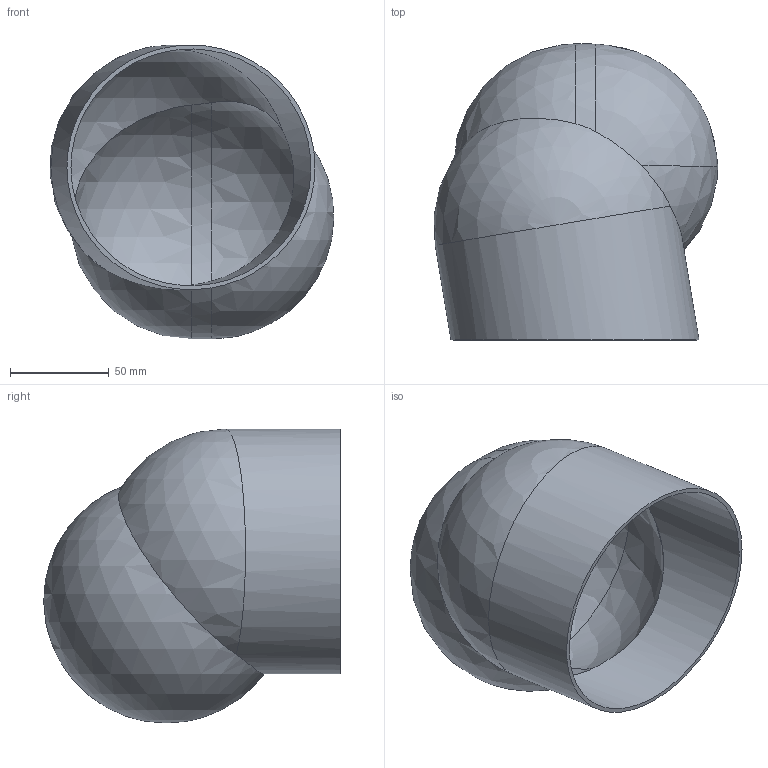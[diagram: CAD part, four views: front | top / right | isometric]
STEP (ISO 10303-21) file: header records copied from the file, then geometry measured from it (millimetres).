
FILE_DESCRIPTION(('Open CASCADE Model'),'2;1');
FILE_NAME('Open CASCADE Shape Model','2026-11-10T19:16:49',('Author'),( 'Open CASCADE'),'Open CASCADE STEP processor 8.0','Open CASCADE 8.0' ,'Unknown');
FILE_SCHEMA(('AUTOMOTIVE_DESIGN { 1 0 10303 214 1 1 1 1 }'));
Length unit declared in the file: millimetre
Products named in the file (1): Open CASCADE STEP translator 8.0 10
Bounding box: 143.76 x 150.13 x 149 mm (x, y, z)
Volume: 127965.7 mm3; surface area: 128751 mm2
Topology: 1 solids, 1 shells, 15 faces, 44 edges, 24 vertices
Faces by surface type: sphere 8, cylinder 6, plane 1
Full cylindrical faces by diameter (mm): 120 x1, 124 x1
Entity records: 1883 total; most frequent: CARTESIAN_POINT 1175, DIRECTION 126, ORIENTED_EDGE 72, PCURVE 72, DEFINITIONAL_REPRESENTATION 72, LINE 44, VECTOR 44, AXIS2_PLACEMENT_3D 40
